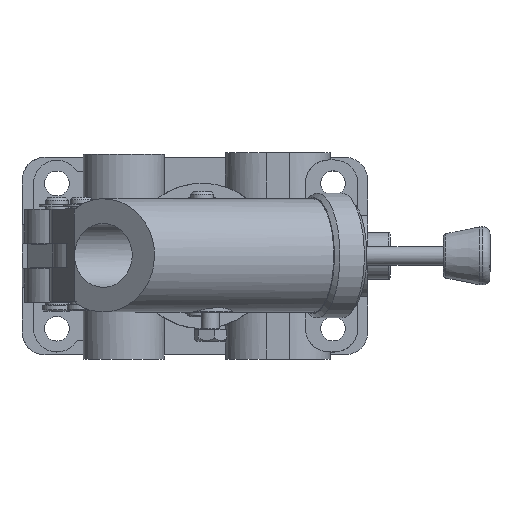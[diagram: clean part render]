
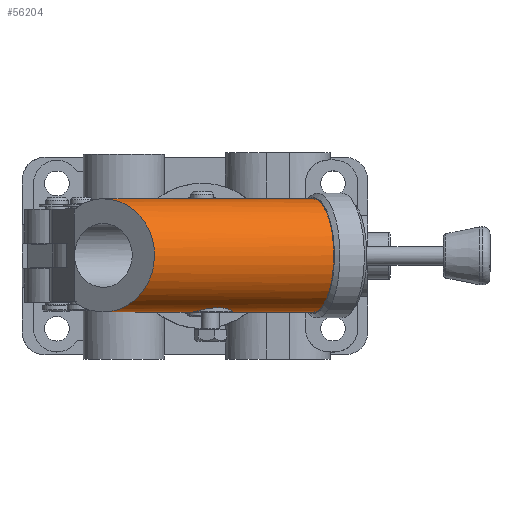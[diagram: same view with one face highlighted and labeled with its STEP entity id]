
A CAD part, top view. The second image highlights one B-rep face of the part: STEP entity #56204.
In plain terms, the highlighted cylindrical face has radius 19.48 mm (diameter 38.961 mm), a partial arc.
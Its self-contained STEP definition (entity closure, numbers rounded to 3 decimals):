
#180=ELLIPSE('',#59291,20.731,19.481);
#181=ELLIPSE('',#59296,20.731,19.481);
#182=ELLIPSE('',#59299,20.731,19.481);
#183=ELLIPSE('',#59302,22.494,19.481);
#184=ELLIPSE('',#59305,20.731,19.481);
#270=B_SPLINE_CURVE_WITH_KNOTS('',3,(#83206,#83207,#83208,#83209,#83210,
#83211),.UNSPECIFIED.,.F.,.F.,(4,1,1,4),(0.039,0.043,
0.045,0.047),.UNSPECIFIED.);
#271=B_SPLINE_CURVE_WITH_KNOTS('',3,(#83213,#83214,#83215,#83216,#83217),
 .UNSPECIFIED.,.F.,.F.,(4,1,4),(0.,0.004,0.009),
 .UNSPECIFIED.);
#272=B_SPLINE_CURVE_WITH_KNOTS('',3,(#83221,#83222,#83223,#83224,#83225),
 .UNSPECIFIED.,.F.,.F.,(4,1,4),(0.032,0.035,0.039),
 .UNSPECIFIED.);
#273=B_SPLINE_CURVE_WITH_KNOTS('',3,(#83227,#83228,#83229,#83230,#83231,
#83232,#83233),.UNSPECIFIED.,.F.,.F.,(4,1,1,1,4),(0.015,0.019,
0.024,0.028,0.032),.UNSPECIFIED.);
#274=B_SPLINE_CURVE_WITH_KNOTS('',3,(#83235,#83236,#83237,#83238,#83239),
 .UNSPECIFIED.,.F.,.F.,(4,1,4),(0.009,0.012,
0.015),.UNSPECIFIED.);
#5017=LINE('',#83173,#9776);
#5018=LINE('',#83174,#9777);
#5022=LINE('',#83184,#9781);
#5023=LINE('',#83186,#9782);
#5025=LINE('',#83192,#9784);
#5026=LINE('',#83196,#9785);
#5029=LINE('',#83204,#9788);
#9776=VECTOR('',#70171,1000.);
#9777=VECTOR('',#70172,1000.);
#9781=VECTOR('',#70182,1000.);
#9782=VECTOR('',#70183,1000.);
#9784=VECTOR('',#70191,1000.);
#9785=VECTOR('',#70198,1000.);
#9788=VECTOR('',#70207,1000.);
#10058=CYLINDRICAL_SURFACE('',#59309,19.481);
#21507=ORIENTED_EDGE('',*,*,#27335,.F.);
#21508=ORIENTED_EDGE('',*,*,#27334,.T.);
#21509=ORIENTED_EDGE('',*,*,#27331,.T.);
#21510=ORIENTED_EDGE('',*,*,#27330,.T.);
#21511=ORIENTED_EDGE('',*,*,#27329,.F.);
#21512=ORIENTED_EDGE('',*,*,#27327,.T.);
#21513=ORIENTED_EDGE('',*,*,#27326,.F.);
#21514=ORIENTED_EDGE('',*,*,#27336,.F.);
#21515=ORIENTED_EDGE('',*,*,#27339,.F.);
#21516=ORIENTED_EDGE('',*,*,#27340,.F.);
#21517=ORIENTED_EDGE('',*,*,#27341,.F.);
#21518=ORIENTED_EDGE('',*,*,#27337,.F.);
#21519=ORIENTED_EDGE('',*,*,#27325,.F.);
#21520=ORIENTED_EDGE('',*,*,#27323,.F.);
#21521=ORIENTED_EDGE('',*,*,#27320,.T.);
#21522=ORIENTED_EDGE('',*,*,#27317,.T.);
#21523=ORIENTED_EDGE('',*,*,#27319,.T.);
#21524=ORIENTED_EDGE('',*,*,#27315,.F.);
#27315=EDGE_CURVE('',#31162,#31163,#180,.T.);
#27317=EDGE_CURVE('',#31164,#31165,#32062,.T.);
#27319=EDGE_CURVE('',#31165,#31163,#5017,.F.);
#27320=EDGE_CURVE('',#31166,#31164,#5018,.T.);
#27323=EDGE_CURVE('',#31166,#31167,#181,.T.);
#27325=EDGE_CURVE('',#31167,#31169,#5022,.F.);
#27326=EDGE_CURVE('',#31169,#31168,#5023,.F.);
#27327=EDGE_CURVE('',#31170,#31168,#182,.T.);
#27329=EDGE_CURVE('',#31170,#31143,#5025,.F.);
#27330=EDGE_CURVE('',#31144,#31143,#183,.T.);
#27331=EDGE_CURVE('',#31171,#31144,#5026,.F.);
#27334=EDGE_CURVE('',#31172,#31171,#184,.T.);
#27335=EDGE_CURVE('',#31172,#31162,#5029,.T.);
#27336=EDGE_CURVE('',#31173,#31169,#270,.T.);
#27337=EDGE_CURVE('',#31169,#31174,#271,.T.);
#27339=EDGE_CURVE('',#31175,#31173,#272,.T.);
#27340=EDGE_CURVE('',#31176,#31175,#273,.T.);
#27341=EDGE_CURVE('',#31174,#31176,#274,.T.);
#31143=VERTEX_POINT('',#83104);
#31144=VERTEX_POINT('',#83106);
#31162=VERTEX_POINT('',#83163);
#31163=VERTEX_POINT('',#83165);
#31164=VERTEX_POINT('',#83169);
#31165=VERTEX_POINT('',#83170);
#31166=VERTEX_POINT('',#83175);
#31167=VERTEX_POINT('',#83179);
#31168=VERTEX_POINT('',#83183);
#31169=VERTEX_POINT('',#83185);
#31170=VERTEX_POINT('',#83189);
#31171=VERTEX_POINT('',#83197);
#31172=VERTEX_POINT('',#83201);
#31173=VERTEX_POINT('',#83212);
#31174=VERTEX_POINT('',#83218);
#31175=VERTEX_POINT('',#83226);
#31176=VERTEX_POINT('',#83234);
#32062=CIRCLE('',#59293,19.481);
#34866=EDGE_LOOP('',(#21507,#21508,#21509,#21510,#21511,#21512,#21513,#21514,
#21515,#21516,#21517,#21518,#21519,#21520,#21521,#21522,#21523,#21524));
#37695=FACE_BOUND('',#34866,.T.);
#56204=ADVANCED_FACE('',(#37695),#10058,.T.);
#59291=AXIS2_PLACEMENT_3D('',#83164,#70161,#70162);
#59293=AXIS2_PLACEMENT_3D('',#83168,#70166,#70167);
#59296=AXIS2_PLACEMENT_3D('',#83180,#70177,#70178);
#59299=AXIS2_PLACEMENT_3D('',#83188,#70186,#70187);
#59302=AXIS2_PLACEMENT_3D('',#83194,#70194,#70195);
#59305=AXIS2_PLACEMENT_3D('',#83202,#70203,#70204);
#59309=AXIS2_PLACEMENT_3D('',#83220,#70212,#70213);
#70161=DIRECTION('',(-0.751,0.,0.661));
#70162=DIRECTION('',(0.661,0.,0.751));
#70166=DIRECTION('',(-0.931,0.,0.364));
#70167=DIRECTION('',(0.364,0.,0.931));
#70171=DIRECTION('',(0.931,0.,-0.364));
#70172=DIRECTION('',(0.931,0.,-0.364));
#70177=DIRECTION('',(-0.751,0.,0.661));
#70178=DIRECTION('',(0.661,0.,0.751));
#70182=DIRECTION('',(0.931,0.,-0.364));
#70183=DIRECTION('',(0.931,0.,-0.364));
#70186=DIRECTION('',(-1.,0.,0.024));
#70187=DIRECTION('',(-0.024,0.,-1.));
#70191=DIRECTION('',(0.931,0.,-0.364));
#70194=DIRECTION('',(0.624,0.,-0.781));
#70195=DIRECTION('',(0.781,0.,0.624));
#70198=DIRECTION('',(0.931,0.,-0.364));
#70203=DIRECTION('',(-1.,0.,0.024));
#70204=DIRECTION('',(-0.024,0.,-1.));
#70207=DIRECTION('',(0.931,0.,-0.364));
#70212=DIRECTION('',(0.931,0.,-0.364));
#70213=DIRECTION('',(-0.364,0.,-0.931));
#83104=CARTESIAN_POINT('',(-44.048,-15.984,138.434));
#83106=CARTESIAN_POINT('',(-44.048,15.984,138.434));
#83163=CARTESIAN_POINT('',(34.381,17.982,111.667));
#83164=CARTESIAN_POINT('',(39.651,0.,117.651));
#83165=CARTESIAN_POINT('',(27.005,7.492,103.289));
#83168=CARTESIAN_POINT('',(38.159,0.,118.235));
#83169=CARTESIAN_POINT('',(31.608,-7.493,101.489));
#83170=CARTESIAN_POINT('',(31.608,7.492,101.489));
#83173=CARTESIAN_POINT('',(-46.542,7.492,132.058));
#83174=CARTESIAN_POINT('',(-46.542,-7.493,132.058));
#83175=CARTESIAN_POINT('',(27.005,-7.493,103.289));
#83179=CARTESIAN_POINT('',(34.381,-17.982,111.667));
#83180=CARTESIAN_POINT('',(39.651,0.,117.651));
#83183=CARTESIAN_POINT('',(-13.304,-17.982,130.32));
#83184=CARTESIAN_POINT('',(-42.721,-17.982,141.826));
#83185=CARTESIAN_POINT('',(0.076,-17.982,125.086));
#83186=CARTESIAN_POINT('',(-42.721,-17.982,141.826));
#83188=CARTESIAN_POINT('',(-13.114,0.,138.291));
#83189=CARTESIAN_POINT('',(-13.396,-15.984,126.444));
#83192=CARTESIAN_POINT('',(-44.048,-15.984,138.434));
#83194=CARTESIAN_POINT('',(-34.004,0.,146.462));
#83196=CARTESIAN_POINT('',(-44.048,15.984,138.434));
#83197=CARTESIAN_POINT('',(-13.396,15.984,126.444));
#83201=CARTESIAN_POINT('',(-13.304,17.982,130.32));
#83202=CARTESIAN_POINT('',(-13.114,0.,138.291));
#83204=CARTESIAN_POINT('',(-42.721,17.982,141.826));
#83206=CARTESIAN_POINT('',(-4.676,-19.231,131.651));
#83207=CARTESIAN_POINT('',(-4.598,-19.021,130.226));
#83208=CARTESIAN_POINT('',(-3.861,-18.538,128.145));
#83209=CARTESIAN_POINT('',(-1.851,-18.071,126.064));
#83210=CARTESIAN_POINT('',(-0.604,-17.982,125.352));
#83211=CARTESIAN_POINT('',(0.076,-17.982,125.086));
#83212=CARTESIAN_POINT('',(-4.676,-19.231,131.651));
#83213=CARTESIAN_POINT('',(0.076,-17.982,125.086));
#83214=CARTESIAN_POINT('',(1.434,-17.982,124.555));
#83215=CARTESIAN_POINT('',(4.388,-18.372,124.32));
#83216=CARTESIAN_POINT('',(7.001,-19.022,125.696));
#83217=CARTESIAN_POINT('',(8.021,-19.231,126.685));
#83218=CARTESIAN_POINT('',(8.021,-19.231,126.685));
#83220=CARTESIAN_POINT('',(-39.991,0.,148.804));
#83221=CARTESIAN_POINT('',(-2.411,-19.231,137.443));
#83222=CARTESIAN_POINT('',(-3.178,-19.388,136.699));
#83223=CARTESIAN_POINT('',(-4.389,-19.574,134.882));
#83224=CARTESIAN_POINT('',(-4.735,-19.387,132.71));
#83225=CARTESIAN_POINT('',(-4.676,-19.231,131.651));
#83226=CARTESIAN_POINT('',(-2.411,-19.231,137.443));
#83227=CARTESIAN_POINT('',(10.286,-19.231,132.476));
#83228=CARTESIAN_POINT('',(10.207,-19.02,133.91));
#83229=CARTESIAN_POINT('',(9.235,-18.374,136.662));
#83230=CARTESIAN_POINT('',(5.699,-17.786,139.443));
#83231=CARTESIAN_POINT('',(1.201,-18.373,139.806));
#83232=CARTESIAN_POINT('',(-1.378,-19.019,138.444));
#83233=CARTESIAN_POINT('',(-2.411,-19.231,137.443));
#83234=CARTESIAN_POINT('',(10.286,-19.231,132.476));
#83235=CARTESIAN_POINT('',(8.021,-19.231,126.685));
#83236=CARTESIAN_POINT('',(8.778,-19.386,127.419));
#83237=CARTESIAN_POINT('',(10.,-19.574,129.244));
#83238=CARTESIAN_POINT('',(10.345,-19.388,131.411));
#83239=CARTESIAN_POINT('',(10.286,-19.231,132.476));
